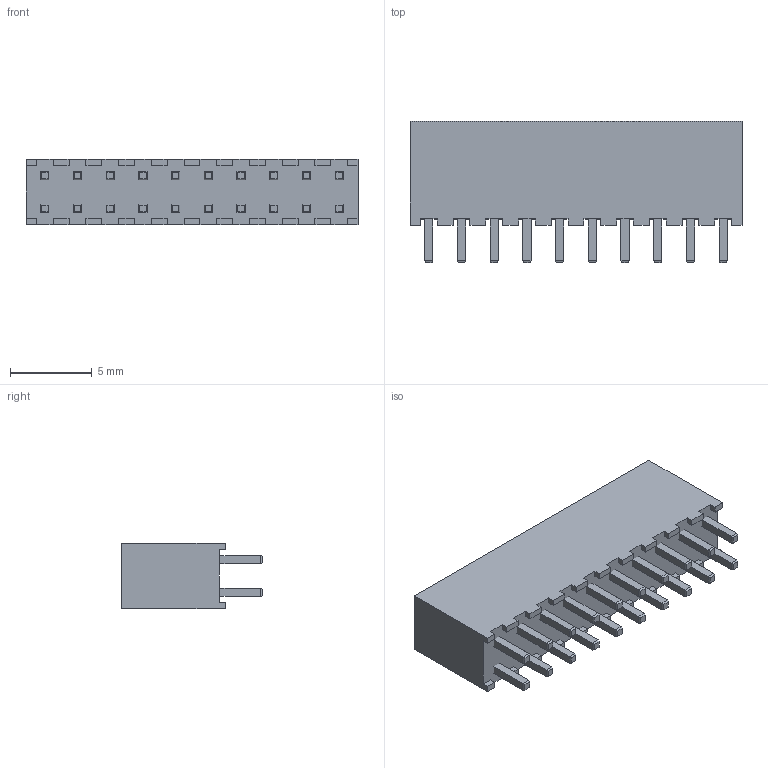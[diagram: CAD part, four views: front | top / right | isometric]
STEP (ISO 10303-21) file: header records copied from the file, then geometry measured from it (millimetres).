
FILE_DESCRIPTION(/* description */ ('STEP AP214'),/* implementation_level */ '2;1');
FILE_NAME(/* name */ 'SQT-110-01-L-D',/* time_stamp */ '2024-04-19T11:46:22+02:00',/* author */ ('License CC BY-ND 4.0'),/* organization */ ('CADENAS'),/* preprocessor_version */ 'ST-DEVELOPER v19.3',/* originating_system */ 'PARTsolutions',/* authorisation */ ' ');
FILE_SCHEMA (('AUTOMOTIVE_DESIGN {1 0 10303 214 3 1 1}'));
Length unit declared in the file: inch
Products named in the file (3): SQT-110-01-L-D; S1SQT-110-01-L-D; P1SQT-110-01-L-D
Assembly tree (2 placements, depth 2):
  SQT-110-01-L-D
    S1SQT-110-01-L-D
    P1SQT-110-01-L-D
Bounding box: 20.3 x 8.64 x 4 mm (x, y, z)
Volume: 493.2 mm3; surface area: 1091.7 mm2
Topology: 2 solids, 2 shells, 596 faces, 1516 edges, 984 vertices
Faces by surface type: plane 576, cylinder 20
Entity records: 17598 total; most frequent: CARTESIAN_POINT 3099, ORIENTED_EDGE 3032, DIRECTION 2754, EDGE_CURVE 1516, LINE 1476, VECTOR 1476, VERTEX_POINT 984, EDGE_LOOP 656
